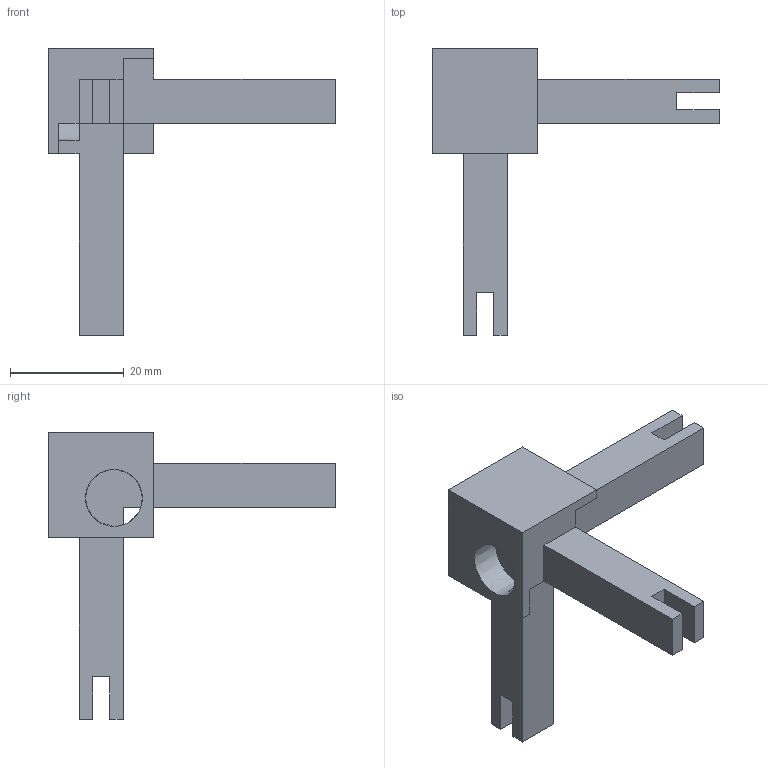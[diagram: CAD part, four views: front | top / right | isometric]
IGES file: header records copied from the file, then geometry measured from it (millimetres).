
Start section: Data from Parasolid IGES Translator 20.0.26, Copyright(c) 2006 Siemens P LM Software. All Rights Reserved.
Global section: file name: 9298843.igs; native system: By Siemens PLM Incorporated; preprocessor: XPlus GENERIC/IGES 20.0.26; author: Noname; organization: Noname; date: 20210823.121215; units: millimetre
Bounding box: 50.5 x 50.5 x 50.5 mm (x, y, z)
Surface area: 5382.7 mm2 (no closed solid volume)
Topology: 0 solids, 0 shells, 38 faces, 216 edges, 215 vertices
Faces by surface type: extrusion 37, revolution 1
